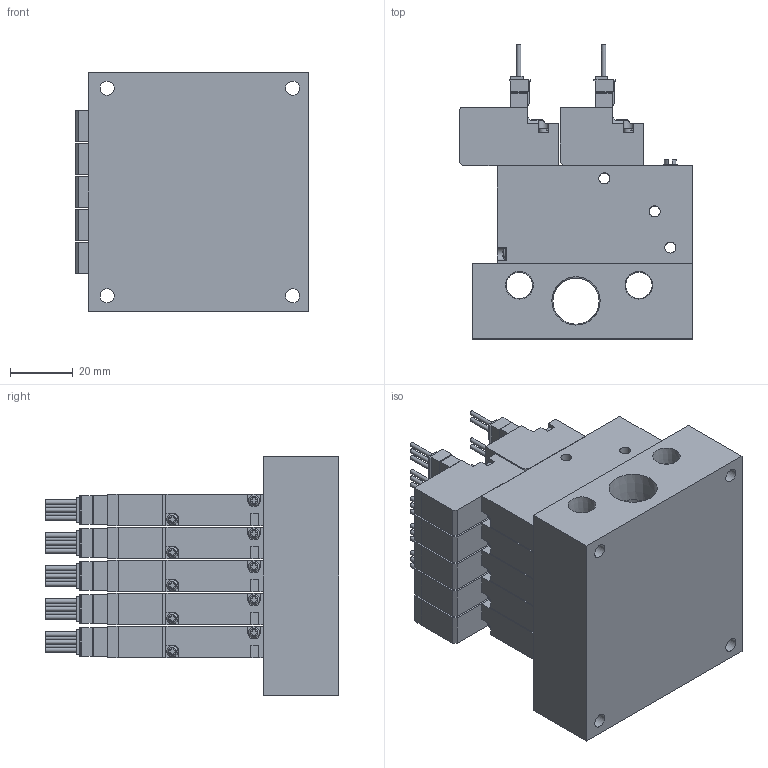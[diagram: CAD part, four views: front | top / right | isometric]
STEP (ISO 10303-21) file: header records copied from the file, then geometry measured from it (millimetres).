
FILE_DESCRIPTION(('STEP AP203'),'1');
FILE_NAME('BMPV42MZZ5W505.stp','2025-04-30T01:55:08',(' '),(' '),'Spatial InterOp 3D',' ',' ');
FILE_SCHEMA(('CONFIG_CONTROL_DESIGN'));
Length unit declared in the file: millimetre
Products named in the file (5): BMPV42MZZ5W505; VACUUM VALVE FUNCTION MPV42-W; VACUUM VALVE FUNCTION MPV42-A; UNIT-MPV42; MPV42-M50R-1
Assembly tree (16 placements, depth 2):
  BMPV42MZZ5W505
    VACUUM VALVE FUNCTION MPV42-W  x5
    VACUUM VALVE FUNCTION MPV42-A  x5
    UNIT-MPV42  x5
    MPV42-M50R-1
Bounding box: 74 x 93.45 x 76 mm (x, y, z)
Volume: 250560.2 mm3; surface area: 81496.5 mm2
Topology: 16 solids, 16 shells, 1339 faces, 3604 edges, 2402 vertices
Faces by surface type: plane 1086, cylinder 212, cone 21, sphere 10, torus 10
Full cylindrical faces by diameter (mm): 1.4 x25, 1.8 x5, 2.2 x10, 3 x20, 3.5 x35, 4.134 x5, 4.5 x4, 5 x5, 8.441 x2, 14.744 x1
Entity records: 8911 total; most frequent: CARTESIAN_POINT 1602, DIRECTION 1427, ORIENTED_EDGE 1402, EDGE_CURVE 701, LINE 559, VECTOR 559, VERTEX_POINT 489, AXIS2_PLACEMENT_3D 434
